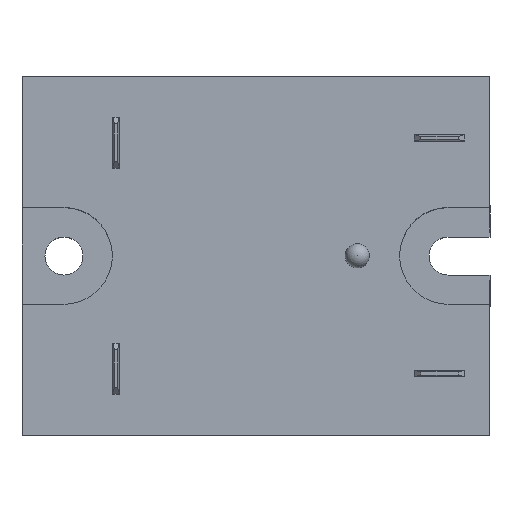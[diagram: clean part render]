
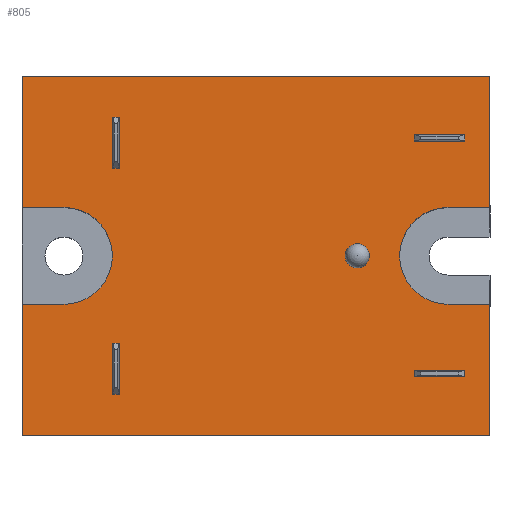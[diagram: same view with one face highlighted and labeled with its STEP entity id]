
A CAD part, top view. The second image highlights one B-rep face of the part: STEP entity #805.
In plain terms, the highlighted planar face has unit normal (0, 0, 1).
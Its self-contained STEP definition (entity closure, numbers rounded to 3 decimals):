
#73=CARTESIAN_POINT('',(14.05,0.0,19.5));
#74=VERTEX_POINT('',#73);
#75=CARTESIAN_POINT('',(12.55,0.,19.5));
#76=DIRECTION('',(0.0,0.0,-1.0));
#77=DIRECTION('',(0.0,1.0,0.0));
#78=AXIS2_PLACEMENT_3D('',#75,#76,#77);
#79=CIRCLE('',#78,1.5);
#80=EDGE_CURVE('',#74,#74,#79,.T.);
#210=CARTESIAN_POINT('',(19.6,-14.2,19.5));
#211=VERTEX_POINT('',#210);
#218=CARTESIAN_POINT('',(19.6,-15.,19.5));
#219=VERTEX_POINT('',#218);
#220=CARTESIAN_POINT('',(19.6,-15.,19.5));
#221=DIRECTION('',(0.0,1.0,0.0));
#222=VECTOR('',#221,0.8);
#223=LINE('',#220,#222);
#224=EDGE_CURVE('',#219,#211,#223,.T.);
#360=CARTESIAN_POINT('',(19.6,15.,19.5));
#361=VERTEX_POINT('',#360);
#368=CARTESIAN_POINT('',(19.6,14.2,19.5));
#369=VERTEX_POINT('',#368);
#370=CARTESIAN_POINT('',(19.6,14.2,19.5));
#371=DIRECTION('',(0.0,1.0,0.0));
#372=VECTOR('',#371,0.8);
#373=LINE('',#370,#372);
#374=EDGE_CURVE('',#369,#361,#373,.T.);
#408=CARTESIAN_POINT('',(25.9,-15.,19.5));
#409=VERTEX_POINT('',#408);
#416=CARTESIAN_POINT('',(25.9,-14.2,19.5));
#417=VERTEX_POINT('',#416);
#418=CARTESIAN_POINT('',(25.9,-14.2,19.5));
#419=DIRECTION('',(0.0,-1.0,0.0));
#420=VECTOR('',#419,0.8);
#421=LINE('',#418,#420);
#422=EDGE_CURVE('',#417,#409,#421,.T.);
#513=CARTESIAN_POINT('',(25.9,-15.,19.5));
#514=DIRECTION('',(-1.0,0.0,0.0));
#515=VECTOR('',#514,6.3);
#516=LINE('',#513,#515);
#517=EDGE_CURVE('',#409,#219,#516,.T.);
#533=CARTESIAN_POINT('',(19.6,-14.2,19.5));
#534=DIRECTION('',(1.0,0.0,0.0));
#535=VECTOR('',#534,6.3);
#536=LINE('',#533,#535);
#537=EDGE_CURVE('',#211,#417,#536,.T.);
#552=CARTESIAN_POINT('',(25.9,15.,19.5));
#553=VERTEX_POINT('',#552);
#560=CARTESIAN_POINT('',(19.6,15.,19.5));
#561=DIRECTION('',(1.0,0.0,0.0));
#562=VECTOR('',#561,6.3);
#563=LINE('',#560,#562);
#564=EDGE_CURVE('',#361,#553,#563,.T.);
#580=CARTESIAN_POINT('',(25.9,14.2,19.5));
#581=VERTEX_POINT('',#580);
#582=CARTESIAN_POINT('',(25.9,14.2,19.5));
#583=DIRECTION('',(-1.0,0.0,0.0));
#584=VECTOR('',#583,6.3);
#585=LINE('',#582,#584);
#586=EDGE_CURVE('',#581,#369,#585,.T.);
#607=CARTESIAN_POINT('',(25.9,15.,19.5));
#608=DIRECTION('',(0.0,-1.0,0.0));
#609=VECTOR('',#608,0.8);
#610=LINE('',#607,#609);
#611=EDGE_CURVE('',#553,#581,#610,.T.);
#617=CARTESIAN_POINT('',(-29.,22.15,19.5));
#618=DIRECTION('',(0.0,0.0,1.0));
#619=DIRECTION('',(1.0,0.0,0.0));
#620=AXIS2_PLACEMENT_3D('',#617,#618,#619);
#621=PLANE('',#620);
#622=CARTESIAN_POINT('',(-29.,-6.,19.5));
#623=VERTEX_POINT('',#622);
#624=CARTESIAN_POINT('',(-29.,-22.25,19.5));
#625=VERTEX_POINT('',#624);
#626=CARTESIAN_POINT('',(-29.,-6.,19.5));
#627=DIRECTION('',(0.0,-1.0,0.0));
#628=VECTOR('',#627,16.25);
#629=LINE('',#626,#628);
#630=EDGE_CURVE('',#623,#625,#629,.T.);
#631=ORIENTED_EDGE('',*,*,#630,.T.);
#632=CARTESIAN_POINT('',(29.,-22.25,19.5));
#633=VERTEX_POINT('',#632);
#634=CARTESIAN_POINT('',(-29.,-22.25,19.5));
#635=DIRECTION('',(1.0,0.0,0.0));
#636=VECTOR('',#635,58.0);
#637=LINE('',#634,#636);
#638=EDGE_CURVE('',#625,#633,#637,.T.);
#639=ORIENTED_EDGE('',*,*,#638,.T.);
#640=CARTESIAN_POINT('',(29.,-6.,19.5));
#641=VERTEX_POINT('',#640);
#642=CARTESIAN_POINT('',(29.,-22.25,19.5));
#643=DIRECTION('',(0.0,1.0,0.0));
#644=VECTOR('',#643,16.25);
#645=LINE('',#642,#644);
#646=EDGE_CURVE('',#633,#641,#645,.T.);
#647=ORIENTED_EDGE('',*,*,#646,.T.);
#648=CARTESIAN_POINT('',(23.8,-6.,19.5));
#649=VERTEX_POINT('',#648);
#650=CARTESIAN_POINT('',(29.,-6.,19.5));
#651=DIRECTION('',(-1.0,0.0,0.0));
#652=VECTOR('',#651,5.2);
#653=LINE('',#650,#652);
#654=EDGE_CURVE('',#641,#649,#653,.T.);
#655=ORIENTED_EDGE('',*,*,#654,.T.);
#656=CARTESIAN_POINT('',(23.8,6.,19.5));
#657=VERTEX_POINT('',#656);
#658=CARTESIAN_POINT('',(23.8,0.,19.5));
#659=DIRECTION('',(0.0,0.0,-1.0));
#660=DIRECTION('',(0.0,-1.0,0.0));
#661=AXIS2_PLACEMENT_3D('',#658,#659,#660);
#662=CIRCLE('',#661,6.);
#663=EDGE_CURVE('',#649,#657,#662,.T.);
#664=ORIENTED_EDGE('',*,*,#663,.T.);
#665=CARTESIAN_POINT('',(29.,6.,19.5));
#666=VERTEX_POINT('',#665);
#667=CARTESIAN_POINT('',(23.8,6.,19.5));
#668=DIRECTION('',(1.0,0.0,0.0));
#669=VECTOR('',#668,5.2);
#670=LINE('',#667,#669);
#671=EDGE_CURVE('',#657,#666,#670,.T.);
#672=ORIENTED_EDGE('',*,*,#671,.T.);
#673=CARTESIAN_POINT('',(29.,22.25,19.5));
#674=VERTEX_POINT('',#673);
#675=CARTESIAN_POINT('',(29.,6.,19.5));
#676=DIRECTION('',(0.0,1.0,0.0));
#677=VECTOR('',#676,16.25);
#678=LINE('',#675,#677);
#679=EDGE_CURVE('',#666,#674,#678,.T.);
#680=ORIENTED_EDGE('',*,*,#679,.T.);
#681=CARTESIAN_POINT('',(-29.,22.25,19.5));
#682=VERTEX_POINT('',#681);
#683=CARTESIAN_POINT('',(29.,22.25,19.5));
#684=DIRECTION('',(-1.0,0.0,0.0));
#685=VECTOR('',#684,58.0);
#686=LINE('',#683,#685);
#687=EDGE_CURVE('',#674,#682,#686,.T.);
#688=ORIENTED_EDGE('',*,*,#687,.T.);
#689=CARTESIAN_POINT('',(-29.,6.,19.5));
#690=VERTEX_POINT('',#689);
#691=CARTESIAN_POINT('',(-29.,22.25,19.5));
#692=DIRECTION('',(0.0,-1.0,0.0));
#693=VECTOR('',#692,16.25);
#694=LINE('',#691,#693);
#695=EDGE_CURVE('',#682,#690,#694,.T.);
#696=ORIENTED_EDGE('',*,*,#695,.T.);
#697=CARTESIAN_POINT('',(-23.8,6.,19.5));
#698=VERTEX_POINT('',#697);
#699=CARTESIAN_POINT('',(-29.,6.,19.5));
#700=DIRECTION('',(1.0,0.0,0.0));
#701=VECTOR('',#700,5.2);
#702=LINE('',#699,#701);
#703=EDGE_CURVE('',#690,#698,#702,.T.);
#704=ORIENTED_EDGE('',*,*,#703,.T.);
#705=CARTESIAN_POINT('',(-23.8,-6.,19.5));
#706=VERTEX_POINT('',#705);
#707=CARTESIAN_POINT('',(-23.8,0.,19.5));
#708=DIRECTION('',(0.0,0.0,-1.0));
#709=DIRECTION('',(0.0,1.0,0.0));
#710=AXIS2_PLACEMENT_3D('',#707,#708,#709);
#711=CIRCLE('',#710,6.);
#712=EDGE_CURVE('',#698,#706,#711,.T.);
#713=ORIENTED_EDGE('',*,*,#712,.T.);
#714=CARTESIAN_POINT('',(-23.8,-6.,19.5));
#715=DIRECTION('',(-1.0,0.0,0.0));
#716=VECTOR('',#715,5.2);
#717=LINE('',#714,#716);
#718=EDGE_CURVE('',#706,#623,#717,.T.);
#719=ORIENTED_EDGE('',*,*,#718,.T.);
#720=EDGE_LOOP('',(#631,#639,#647,#655,#664,#672,#680,#688,#696,#704,#713,#719));
#721=FACE_OUTER_BOUND('',#720,.T.);
#722=ORIENTED_EDGE('',*,*,#80,.T.);
#723=EDGE_LOOP('',(#722));
#724=FACE_BOUND('',#723,.T.);
#725=ORIENTED_EDGE('',*,*,#422,.T.);
#726=ORIENTED_EDGE('',*,*,#517,.T.);
#727=ORIENTED_EDGE('',*,*,#224,.T.);
#728=ORIENTED_EDGE('',*,*,#537,.T.);
#729=EDGE_LOOP('',(#725,#726,#727,#728));
#730=FACE_BOUND('',#729,.T.);
#731=ORIENTED_EDGE('',*,*,#564,.T.);
#732=ORIENTED_EDGE('',*,*,#611,.T.);
#733=ORIENTED_EDGE('',*,*,#586,.T.);
#734=ORIENTED_EDGE('',*,*,#374,.T.);
#735=EDGE_LOOP('',(#731,#732,#733,#734));
#736=FACE_BOUND('',#735,.T.);
#737=CARTESIAN_POINT('',(-16.95,17.15,19.5));
#738=VERTEX_POINT('',#737);
#739=CARTESIAN_POINT('',(-16.95,10.85,19.5));
#740=VERTEX_POINT('',#739);
#741=CARTESIAN_POINT('',(-16.95,17.15,19.5));
#742=DIRECTION('',(0.0,-1.0,0.0));
#743=VECTOR('',#742,6.3);
#744=LINE('',#741,#743);
#745=EDGE_CURVE('',#738,#740,#744,.T.);
#746=ORIENTED_EDGE('',*,*,#745,.T.);
#747=CARTESIAN_POINT('',(-17.75,10.85,19.5));
#748=VERTEX_POINT('',#747);
#749=CARTESIAN_POINT('',(-16.95,10.85,19.5));
#750=DIRECTION('',(-1.0,0.0,0.0));
#751=VECTOR('',#750,0.8);
#752=LINE('',#749,#751);
#753=EDGE_CURVE('',#740,#748,#752,.T.);
#754=ORIENTED_EDGE('',*,*,#753,.T.);
#755=CARTESIAN_POINT('',(-17.75,17.15,19.5));
#756=VERTEX_POINT('',#755);
#757=CARTESIAN_POINT('',(-17.75,10.85,19.5));
#758=DIRECTION('',(0.0,1.0,0.0));
#759=VECTOR('',#758,6.3);
#760=LINE('',#757,#759);
#761=EDGE_CURVE('',#748,#756,#760,.T.);
#762=ORIENTED_EDGE('',*,*,#761,.T.);
#763=CARTESIAN_POINT('',(-17.75,17.15,19.5));
#764=DIRECTION('',(1.0,0.0,0.0));
#765=VECTOR('',#764,0.8);
#766=LINE('',#763,#765);
#767=EDGE_CURVE('',#756,#738,#766,.T.);
#768=ORIENTED_EDGE('',*,*,#767,.T.);
#769=EDGE_LOOP('',(#746,#754,#762,#768));
#770=FACE_BOUND('',#769,.T.);
#771=CARTESIAN_POINT('',(-16.95,-10.85,19.5));
#772=VERTEX_POINT('',#771);
#773=CARTESIAN_POINT('',(-16.95,-17.15,19.5));
#774=VERTEX_POINT('',#773);
#775=CARTESIAN_POINT('',(-16.95,-10.85,19.5));
#776=DIRECTION('',(0.0,-1.0,0.0));
#777=VECTOR('',#776,6.3);
#778=LINE('',#775,#777);
#779=EDGE_CURVE('',#772,#774,#778,.T.);
#780=ORIENTED_EDGE('',*,*,#779,.T.);
#781=CARTESIAN_POINT('',(-17.75,-17.15,19.5));
#782=VERTEX_POINT('',#781);
#783=CARTESIAN_POINT('',(-16.95,-17.15,19.5));
#784=DIRECTION('',(-1.0,0.0,0.0));
#785=VECTOR('',#784,0.8);
#786=LINE('',#783,#785);
#787=EDGE_CURVE('',#774,#782,#786,.T.);
#788=ORIENTED_EDGE('',*,*,#787,.T.);
#789=CARTESIAN_POINT('',(-17.75,-10.85,19.5));
#790=VERTEX_POINT('',#789);
#791=CARTESIAN_POINT('',(-17.75,-17.15,19.5));
#792=DIRECTION('',(0.0,1.0,0.0));
#793=VECTOR('',#792,6.3);
#794=LINE('',#791,#793);
#795=EDGE_CURVE('',#782,#790,#794,.T.);
#796=ORIENTED_EDGE('',*,*,#795,.T.);
#797=CARTESIAN_POINT('',(-17.75,-10.85,19.5));
#798=DIRECTION('',(1.0,0.0,0.0));
#799=VECTOR('',#798,0.8);
#800=LINE('',#797,#799);
#801=EDGE_CURVE('',#790,#772,#800,.T.);
#802=ORIENTED_EDGE('',*,*,#801,.T.);
#803=EDGE_LOOP('',(#780,#788,#796,#802));
#804=FACE_BOUND('',#803,.T.);
#805=ADVANCED_FACE('',(#721,#724,#730,#736,#770,#804),#621,.T.);
